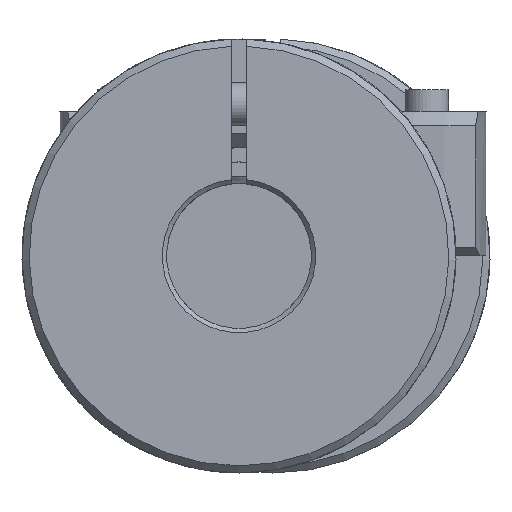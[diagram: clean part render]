
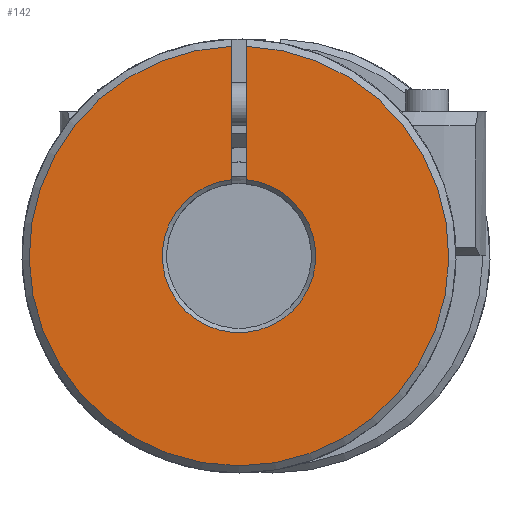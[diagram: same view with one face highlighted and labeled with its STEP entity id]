
A CAD part, left-side view. The second image highlights one B-rep face of the part: STEP entity #142.
In plain terms, the highlighted planar face has unit normal (-1, 0, 0).
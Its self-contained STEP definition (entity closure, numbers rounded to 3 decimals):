
#142 = ADVANCED_FACE( 'NONE', ( #279 ), #280, .F. );
#279 = FACE_OUTER_BOUND( '', #420, .T. );
#280 = PLANE( '', #421 );
#420 = EDGE_LOOP( '', ( #782, #783, #784, #785 ) );
#421 = AXIS2_PLACEMENT_3D( '', #786, #787, #788 );
#782 = ORIENTED_EDGE( '', *, *, #1018, .F. );
#783 = ORIENTED_EDGE( '', *, *, #1063, .T. );
#784 = ORIENTED_EDGE( '', *, *, #1078, .T. );
#785 = ORIENTED_EDGE( '', *, *, #1088, .T. );
#786 = CARTESIAN_POINT( '', ( 0., 15., 0. ) );
#787 = DIRECTION( '', ( 1., 0., 0. ) );
#788 = DIRECTION( '', ( 0., 1., 0. ) );
#1018 = EDGE_CURVE( 'NONE', #1315, #1317, #1318, .F. );
#1063 = EDGE_CURVE( 'NONE', #1315, #1385, #1388, .T. );
#1078 = EDGE_CURVE( 'NONE', #1385, #1406, #1408, .T. );
#1088 = EDGE_CURVE( 'NONE', #1406, #1317, #1420, .F. );
#1315 = VERTEX_POINT( 'NONE', #2015 );
#1317 = VERTEX_POINT( 'NONE', #2020 );
#1318 = LINE( '', #2021, #2022 );
#1385 = VERTEX_POINT( 'NONE', #2267 );
#1388 = CIRCLE( '', #2273, 5.3 );
#1406 = VERTEX_POINT( 'NONE', #2295 );
#1408 = LINE( '', #2300, #2301 );
#1420 = CIRCLE( '', #2314, 14.5 );
#2015 = CARTESIAN_POINT( '', ( 0., -0.5, 5.276 ) );
#2020 = CARTESIAN_POINT( '', ( 0., -0.5, 14.491 ) );
#2021 = CARTESIAN_POINT( '', ( 0., -0.5, 0.664 ) );
#2022 = VECTOR( '', #2537, 1000. );
#2267 = CARTESIAN_POINT( '', ( 0., 0.5, 5.276 ) );
#2273 = AXIS2_PLACEMENT_3D( '', #2589, #2590, #2591 );
#2295 = CARTESIAN_POINT( '', ( 0., 0.5, 14.491 ) );
#2300 = CARTESIAN_POINT( '', ( 0., 0.5, 0. ) );
#2301 = VECTOR( '', #2614, 1000. );
#2314 = AXIS2_PLACEMENT_3D( '', #2625, #2626, #2627 );
#2537 = DIRECTION( '', ( 0., 0., -1. ) );
#2589 = CARTESIAN_POINT( '', ( 0., 0., 0. ) );
#2590 = DIRECTION( '', ( 1., 0., 0. ) );
#2591 = DIRECTION( '', ( 0., 0., -1. ) );
#2614 = DIRECTION( '', ( 0., 0., 1. ) );
#2625 = CARTESIAN_POINT( '', ( 0., 0., 0. ) );
#2626 = DIRECTION( '', ( 1., 0., 0. ) );
#2627 = DIRECTION( '', ( 0., 0., -1. ) );
